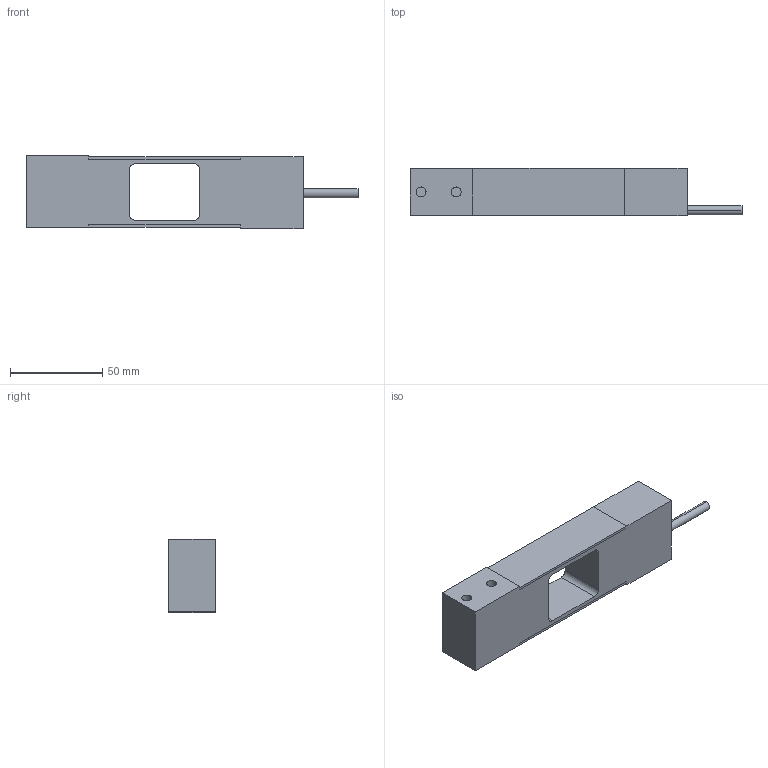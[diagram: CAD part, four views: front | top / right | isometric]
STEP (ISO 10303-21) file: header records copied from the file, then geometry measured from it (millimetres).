
FILE_DESCRIPTION (( 'STEP AP203' ), '1' );
FILE_NAME ('Load_Sensor_HISPA42_50kg-200kg.STEP', '2014-10-09T16:06:53', ( '' ), ( '' ), 'SwSTEP 2.0', 'SolidWorks 2013', '' );
FILE_SCHEMA (( 'CONFIG_CONTROL_DESIGN' ));
Length unit declared in the file: millimetre
Products named in the file (1): Load_Sensor_HISPA42_50kg-200kg
Bounding box: 179.71 x 25.42 x 40 mm (x, y, z)
Volume: 116628.6 mm3; surface area: 23582.5 mm2
Topology: 1 solids, 1 shells, 49 faces, 122 edges, 80 vertices
Faces by surface type: plane 35, cylinder 14
Entity records: 1533 total; most frequent: CARTESIAN_POINT 252, DIRECTION 250, ORIENTED_EDGE 244, EDGE_CURVE 122, VECTOR 94, LINE 94, VERTEX_POINT 80, AXIS2_PLACEMENT_3D 78
